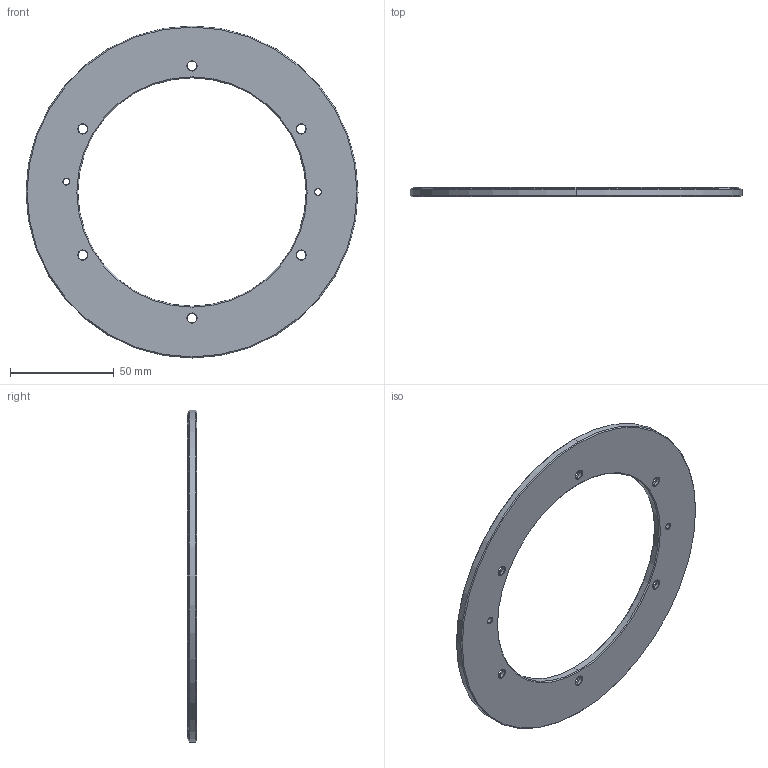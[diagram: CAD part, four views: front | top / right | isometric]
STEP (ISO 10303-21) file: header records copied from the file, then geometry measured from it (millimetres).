
FILE_DESCRIPTION (( 'STEP AP214' ), '1' );
FILE_NAME ('GAR-160-ST.STEP', '2023-03-23T08:42:41', ( '' ), ( '' ), 'SwSTEP 2.0', 'SolidWorks 2021', '' );
FILE_SCHEMA (( 'AUTOMOTIVE_DESIGN' ));
Length unit declared in the file: millimetre
Products named in the file (1): GAR-160-ST
Bounding box: 160 x 4.5 x 160 mm (x, y, z)
Volume: 43961.7 mm3; surface area: 36069 mm2
Topology: 2 solids, 2 shells, 94 faces, 204 edges, 122 vertices
Faces by surface type: cone 46, cylinder 36, plane 12
Entity records: 3691 total; most frequent: DIRECTION 516, CARTESIAN_POINT 421, ORIENTED_EDGE 408, AXIS2_PLACEMENT_3D 217, EDGE_CURVE 204, VERTEX_POINT 122, CIRCLE 122, EDGE_LOOP 122
